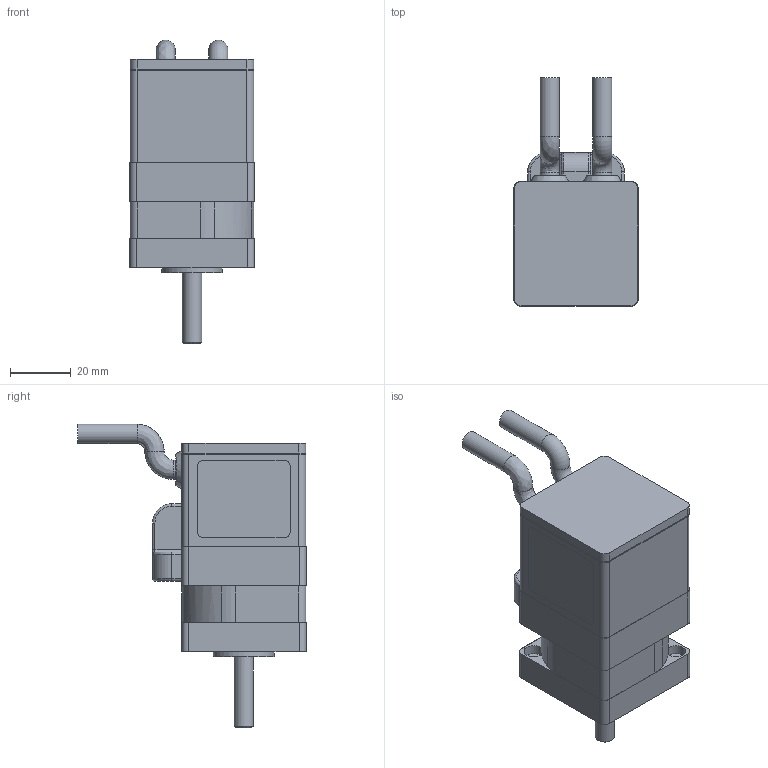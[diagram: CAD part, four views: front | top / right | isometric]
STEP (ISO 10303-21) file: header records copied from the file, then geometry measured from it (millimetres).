
FILE_DESCRIPTION((''),'2;1');
FILE_NAME('I:\ServoMotorEngineering\Jons Files\Customer Drawings\3D MODELS\BE161_CBL.stp','2005-12-20T15:02:21',('jevans'),(''),'Autodesk Inventor 10','Autodesk Inventor 10','');
FILE_SCHEMA(('AUTOMOTIVE_DESIGN { 1 0 10303 214 1 1 1 1 }'));
Length unit declared in the file: inch
Products named in the file (1): BE16_CBL
Bounding box: 40.89 x 74.9 x 99.67 mm (x, y, z)
Volume: 118605.3 mm3; surface area: 19291.4 mm2
Topology: 1 solids, 1 shells, 168 faces, 402 edges, 247 vertices
Faces by surface type: cylinder 72, plane 65, bspline 18, torus 12, cone 1
Full cylindrical faces by diameter (mm): 1.7 x2, 6.35 x3, 8.992 x1, 11.176 x1, 15.697 x1, 17 x1, 17.018 x2, 18.009 x1, 20.015 x1
Entity records: 5054 total; most frequent: CARTESIAN_POINT 1210, DIRECTION 847, ORIENTED_EDGE 728, EDGE_CURVE 364, AXIS2_PLACEMENT_3D 332, VERTEX_POINT 239, EDGE_LOOP 217, VECTOR 183
